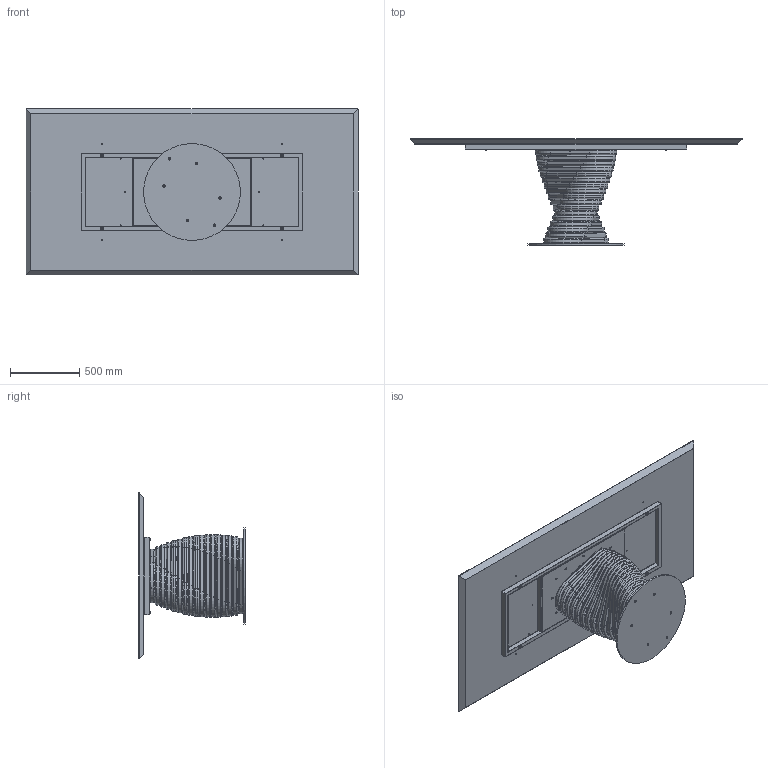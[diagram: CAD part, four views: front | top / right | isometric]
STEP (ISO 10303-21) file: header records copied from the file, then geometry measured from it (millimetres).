
FILE_DESCRIPTION (( 'STEP AP203' ), '1' );
FILE_NAME ('RO23W.STEP', '2024-08-07T13:38:25', ( '' ), ( '' ), 'SwSTEP 2.0', 'SolidWorks 2022', '' );
FILE_SCHEMA (( 'CONFIG_CONTROL_DESIGN' ));
Length unit declared in the file: millimetre
Products named in the file (15): ROBX00000SUP-00-Anello rotolo SUPERIORE_Default<A macchina>; RO23W; M8xXXmm_M8x20mm; ROBX00000-00-ROTOLO BASE 17 ANELLI; COLLO TELAIO UNIVERSALE TTAV01 CON FERRAMENTA_MTG TOP LEGNO-MARMO-KING; ROBX00000INF-00-Anello rotolo INFERIORE_Default<A macchina>; TTAV01_01-05-TELAIO UNIVERSALE X TAVOLI 180 240cm; rondella M8_8X24; TTAV01_02-05-VASSOIO IRRIGIDIMENTO TELAIO UNIVERSALE; M8xXXmm_M8x55mm; ROBX00000MED-00-Anello rotolo MEDIO_Default<A macchina>; W2XCMXX-00-Piani Rettangolari in legno_2400 x 1200; TTAV01-05-TELAIO UNIVERSALE X TAVOLI 180 240cm; ROB200000-00-PIASTRA BASE_Ø70cm; M8xXXmm_hex_M8X20mm
Assembly tree (46 placements, depth 4):
  RO23W
    ROB200000-00-PIASTRA BASE_Ø70cm
    ROBX00000-00-ROTOLO BASE 17 ANELLI
      ROBX00000INF-00-Anello rotolo INFERIORE_Default<A macchina>
      ROBX00000MED-00-Anello rotolo MEDIO_Default<A macchina>  x15
      ROBX00000SUP-00-Anello rotolo SUPERIORE_Default<A macchina>
    M8xXXmm_hex_M8X20mm  x6
    COLLO TELAIO UNIVERSALE TTAV01 CON FERRAMENTA_MTG TOP LEGNO-MARMO-KING
      TTAV01-05-TELAIO UNIVERSALE X TAVOLI 180 240cm
        TTAV01_02-05-VASSOIO IRRIGIDIMENTO TELAIO UNIVERSALE
        TTAV01_01-05-TELAIO UNIVERSALE X TAVOLI 180 240cm
      rondella M8_8X24  x4
      M8xXXmm_M8x55mm  x4
    rondella M8_8X24  x4
    M8xXXmm_M8x20mm  x4
    W2XCMXX-00-Piani Rettangolari in legno_2400 x 1200
Bounding box: 2400 x 770 x 1200 mm (x, y, z)
Volume: 118238258.6 mm3; surface area: 13738800 mm2
Topology: 94 solids, 94 shells, 1680 faces, 3998 edges, 2461 vertices
Faces by surface type: plane 662, cylinder 592, torus 244, cone 174, sphere 8
Entity records: 23179 total; most frequent: CARTESIAN_POINT 5198, DIRECTION 3374, ORIENTED_EDGE 3116, EDGE_CURVE 1558, AXIS2_PLACEMENT_3D 1268, VERTEX_POINT 982, LINE 838, VECTOR 838
